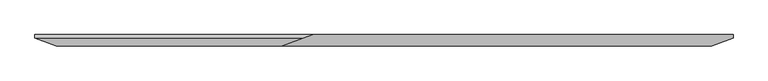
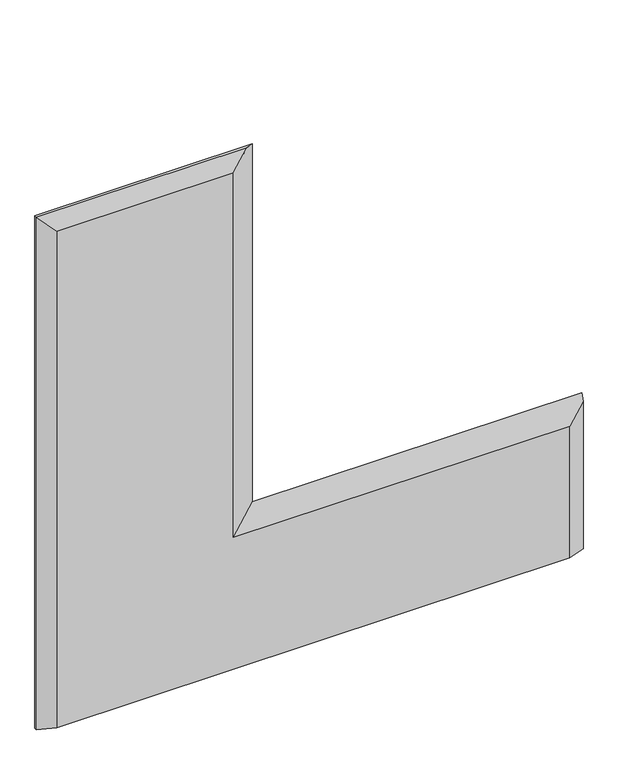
"""IFC4 building model written with IfcOpenShell, lengths in millimetres: proxy geometry, CCN^APOGEE_L3 WORKSURFACE-77x78 SOLID."""

from ifc_helpers import new_model, si_unit, origin, place, context, project, spatial, faceted_brep, source, transform, mapped, element, save


def generic_models_31f89c38(model_context):
    return source(origin(), model_context, "Body", "Brep", [
        faceted_brep([(762.0, 22.225, 0.0), (788.1697224, 31.75, 0.0), (0.0, 31.75, 0.0), (0.0, 22.225, 0.0), (788.1697224, 31.75, -1370.8302776), (1981.2, 31.75, -1370.8302776), (1981.2, 31.75, -1962.15), (0.0, 31.75, -1962.15), (700.9373144, 0.0, -1458.0626856), (1920.1373144, 0.0, -1458.0626856), (1981.2, 22.225, -1397.0), (700.9373144, 0.0, -61.0626856), (1920.1373144, 0.0, -1962.15), (1981.2, 22.225, -1962.15), (61.0626856, 0.0, -61.0626856), (0.0, 22.225, -1962.15), (61.0626856, 0.0, -1962.15)], [[[0, 1, 2, 3]], [[2, 1, 4, 5, 6, 7]], [[4, 8, 9, 10, 5]], [[1, 0, 11, 8, 4]], [[10, 9, 12, 13]], [[3, 14, 11, 0]], [[15, 16, 14, 3]], [[15, 3, 2, 7]], [[10, 13, 6, 5]], [[16, 15, 7, 6, 13, 12]], [[14, 16, 12, 9, 8, 11]]]),
    ])


if __name__ == "__main__":
    model = new_model("IFC4")
    model_context = context("Model", 3, world=origin())
    ifc_project = project(units=[si_unit("LENGTHUNIT", "METRE", prefix="MILLI")], contexts=[model_context])
    site = spatial("IfcSite", under=ifc_project)
    building = spatial("IfcBuilding", under=site)
    placement = place(None, origin())
    generic_models_shape = generic_models_31f89c38(model_context)
    element("IfcBuildingElementProxy", 1, Name="CCN^APOGEE_L3 WORKSURFACE-77x78 SOLID", ObjectType="CCN^APOGEE_L3 WORKSURFACE-77x78 SOLID", at=placement, inside=building, context=model_context, shape_type="MappedRepresentation", body=[
        mapped(generic_models_shape, transform((0.0, 0.0, 0.0), x_axis=(1.0, 0.0, 0.0), y_axis=(0.0, 1.0, 0.0), z_axis=(0.0, 0.0, 1.0))),
    ])
    save(model, "model.ifc")
